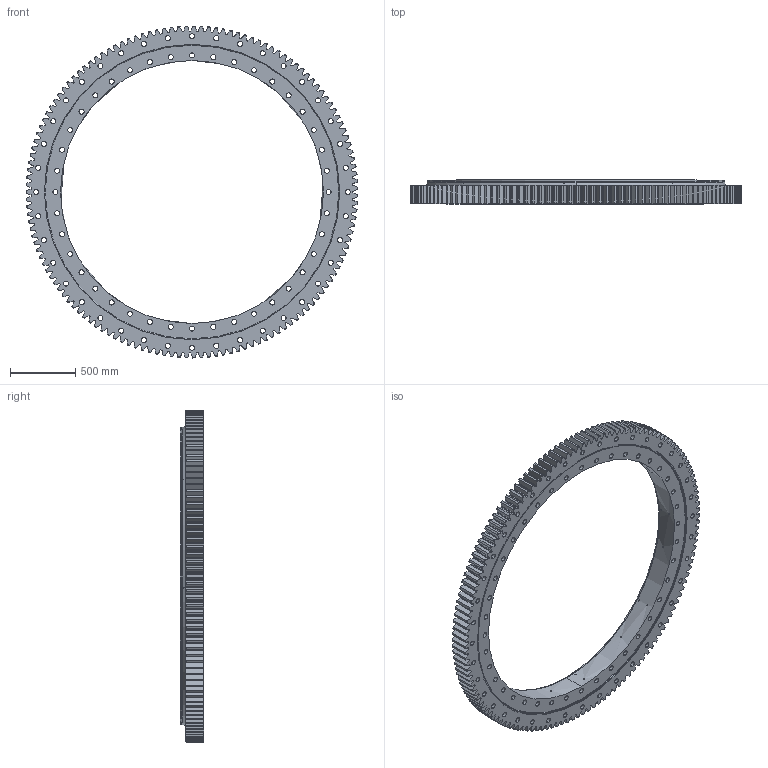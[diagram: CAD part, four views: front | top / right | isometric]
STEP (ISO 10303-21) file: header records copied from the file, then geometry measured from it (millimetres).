
FILE_DESCRIPTION (( 'STEP AP214' ), '1' );
FILE_NAME ('SM3332-2-2552AA.STEP', '2022-11-29T07:09:13', ( '' ), ( '' ), 'SwSTEP 2.0', 'SolidWorks 2020', '' );
FILE_SCHEMA (( 'AUTOMOTIVE_DESIGN' ));
Length unit declared in the file: millimetre
Products named in the file (1): SM3332-2-2552AA
Bounding box: 2552.22 x 182 x 2552.37 mm (x, y, z)
Volume: 259211202.4 mm3; surface area: 12338522.7 mm2
Topology: 5 solids, 5 shells, 1377 faces, 3965 edges, 2640 vertices
Faces by surface type: cylinder 455, plane 354, cone 290, bspline 278
Entity records: 49619 total; most frequent: CARTESIAN_POINT 15081, ORIENTED_EDGE 7930, DIRECTION 6095, EDGE_CURVE 3965, VERTEX_POINT 2640, AXIS2_PLACEMENT_3D 2238, EDGE_LOOP 1621, VECTOR 1619
